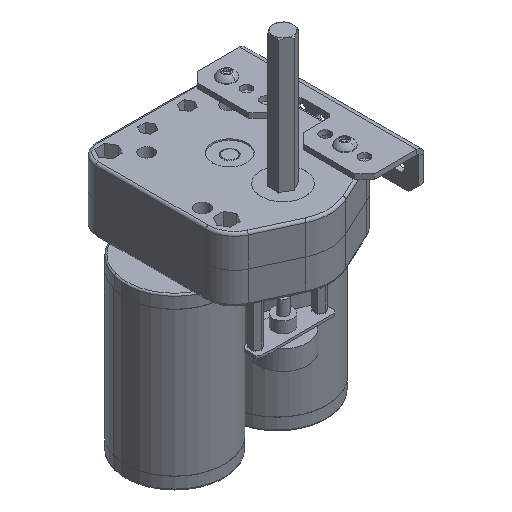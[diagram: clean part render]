
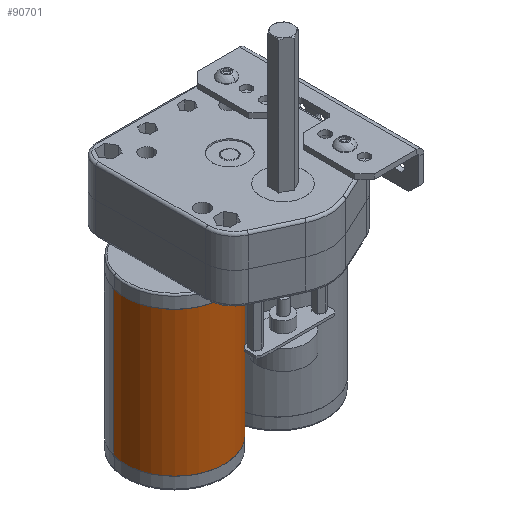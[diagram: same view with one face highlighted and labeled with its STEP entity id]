
A CAD part, isometric view. The second image highlights one B-rep face of the part: STEP entity #90701.
In plain terms, the highlighted cylindrical face has radius 32.004 mm (diameter 64.008 mm), a partial arc.
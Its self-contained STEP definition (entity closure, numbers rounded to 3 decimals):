
#10557 = VERTEX_POINT ( 'NONE', #44597 ) ;
#10939 = VERTEX_POINT ( 'NONE', #47291 ) ;
#20987 = AXIS2_PLACEMENT_3D ( 'NONE', #42476, #42477, #42479 ) ;
#20988 = AXIS2_PLACEMENT_3D ( 'NONE', #42480, #42481, #42482 ) ;
#40672 = VERTEX_POINT ( 'NONE', #59943 ) ;
#40952 = VERTEX_POINT ( 'NONE', #60084 ) ;
#42323 = DIRECTION ( 'NONE',  ( 1., 0., 0. ) ) ;
#42324 = DIRECTION ( 'NONE',  ( 1., 0., 0. ) ) ;
#42325 = CARTESIAN_POINT ( 'NONE',  ( 0., 0., 32.004 ) ) ;
#42330 = CARTESIAN_POINT ( 'NONE',  ( 0., 0., -32.004 ) ) ;
#42476 = CARTESIAN_POINT ( 'NONE',  ( 101.37, 0., 0. ) ) ;
#42477 = DIRECTION ( 'NONE',  ( 1., 0., 0. ) ) ;
#42479 = DIRECTION ( 'NONE',  ( 0., 0., -1. ) ) ;
#42480 = CARTESIAN_POINT ( 'NONE',  ( 8.23, 0., 0. ) ) ;
#42481 = DIRECTION ( 'NONE',  ( 1., 0., 0. ) ) ;
#42482 = DIRECTION ( 'NONE',  ( 0., 0., -1. ) ) ;
#42907 = LINE ( 'NONE', #42325, #42911 ) ;
#42909 = LINE ( 'NONE', #42330, #42914 ) ;
#42911 = VECTOR ( 'NONE', #42323, 1000. ) ;
#42914 = VECTOR ( 'NONE', #42324, 1000. ) ;
#42968 = CIRCLE ( 'NONE', #20987, 32.004 ) ;
#42969 = CIRCLE ( 'NONE', #20988, 32.004 ) ;
#44597 = CARTESIAN_POINT ( 'NONE',  ( 8.23, 0., -32.004 ) ) ;
#47291 = CARTESIAN_POINT ( 'NONE',  ( 8.23, 0., 32.004 ) ) ;
#59943 = CARTESIAN_POINT ( 'NONE',  ( 101.37, 0., 32.004 ) ) ;
#60084 = CARTESIAN_POINT ( 'NONE',  ( 101.37, 0., -32.004 ) ) ;
#77564 = EDGE_CURVE ( 'NONE', #10939, #40672, #42907, .T. ) ;
#77566 = EDGE_CURVE ( 'NONE', #10557, #40952, #42909, .T. ) ;
#77605 = EDGE_CURVE ( 'NONE', #40672, #40952, #42968, .T. ) ;
#77606 = EDGE_CURVE ( 'NONE', #10939, #10557, #42969, .T. ) ;
#83831 = EDGE_LOOP ( 'NONE', ( #101267, #101268, #101269, #101270 ) ) ;
#90701 = ADVANCED_FACE ( 'NONE', ( #103546 ), #103568, .T. ) ;
#101267 = ORIENTED_EDGE ( 'NONE', *, *, #77564, .F. ) ;
#101268 = ORIENTED_EDGE ( 'NONE', *, *, #77606, .T. ) ;
#101269 = ORIENTED_EDGE ( 'NONE', *, *, #77566, .T. ) ;
#101270 = ORIENTED_EDGE ( 'NONE', *, *, #77605, .F. ) ;
#103546 = FACE_OUTER_BOUND ( 'NONE', #83831, .T. ) ;
#103568 = CYLINDRICAL_SURFACE ( 'NONE', #114214, 32.004 ) ;
#113800 = DIRECTION ( 'NONE',  ( 0., 0., -1. ) ) ;
#113803 = DIRECTION ( 'NONE',  ( 1., 0., 0. ) ) ;
#113804 = CARTESIAN_POINT ( 'NONE',  ( 0., 0., 0. ) ) ;
#114214 = AXIS2_PLACEMENT_3D ( 'NONE', #113804, #113803, #113800 ) ;
